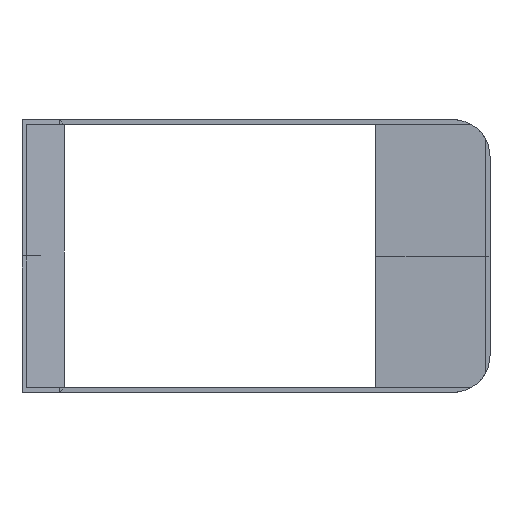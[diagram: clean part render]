
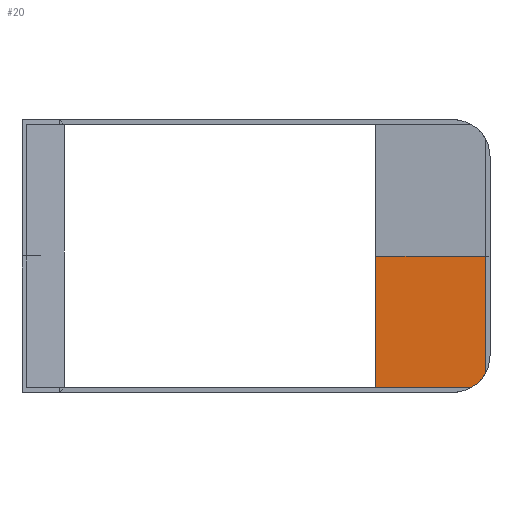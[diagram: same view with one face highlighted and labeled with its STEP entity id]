
A CAD part, top view. The second image highlights one B-rep face of the part: STEP entity #20.
In plain terms, the highlighted planar face has unit normal (0, 0, -1).
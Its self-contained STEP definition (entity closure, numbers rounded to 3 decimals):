
#20=ADVANCED_FACE('',(#44),#378,.T.);
#44=FACE_OUTER_BOUND('',#68,.T.);
#68=EDGE_LOOP('',(#112,#113,#114,#115,#116));
#112=ORIENTED_EDGE('',*,*,#240,.T.);
#113=ORIENTED_EDGE('',*,*,#208,.F.);
#114=ORIENTED_EDGE('',*,*,#212,.F.);
#115=ORIENTED_EDGE('',*,*,#211,.T.);
#116=ORIENTED_EDGE('',*,*,#244,.F.);
#208=EDGE_CURVE('',#341,#362,#288,.T.);
#211=EDGE_CURVE('',#344,#339,#291,.T.);
#212=EDGE_CURVE('',#344,#341,#292,.T.);
#240=EDGE_CURVE('',#360,#362,#319,.T.);
#244=EDGE_CURVE('',#360,#339,#322,.T.);
#288=B_SPLINE_CURVE_WITH_KNOTS('',1,(#666,#667),.UNSPECIFIED.,.F.,.F.,(2,
2),(430.037,558.77),.UNSPECIFIED.);
#291=B_SPLINE_CURVE_WITH_KNOTS('',1,(#672,#673),.UNSPECIFIED.,.F.,.F.,(2,
2),(-17131.968,-16982.984),.UNSPECIFIED.);
#292=B_SPLINE_CURVE_WITH_KNOTS('',1,(#674,#675),.UNSPECIFIED.,.F.,.F.,(2,
2),(-864.969,-685.969),.UNSPECIFIED.);
#319=B_SPLINE_CURVE_WITH_KNOTS('',3,(#738,#739,#740,#741,#742,#743),
 .UNSPECIFIED.,.F.,.F.,(4,2,4),(24.9,39.523,54.145),
 .UNSPECIFIED.);
#322=B_SPLINE_CURVE_WITH_KNOTS('',1,(#750,#751),.UNSPECIFIED.,.F.,.F.,(2,
2),(-343.749,-185.),.UNSPECIFIED.);
#339=VERTEX_POINT('',#609);
#341=VERTEX_POINT('',#611);
#344=VERTEX_POINT('',#614);
#360=VERTEX_POINT('',#630);
#362=VERTEX_POINT('',#632);
#378=PLANE('',#488);
#488=AXIS2_PLACEMENT_3D('',#546,#503,$);
#503=DIRECTION('',(0.,0.,-1.));
#546=CARTESIAN_POINT('',(289431.466,1669.7,-988.444));
#609=CARTESIAN_POINT('',(289582.,1481.,-988.444));
#611=CARTESIAN_POINT('',(289433.016,1302.,-988.444));
#614=CARTESIAN_POINT('',(289433.016,1481.,-988.444));
#630=CARTESIAN_POINT('',(289582.,1322.251,-988.444));
#632=CARTESIAN_POINT('',(289561.749,1302.,-988.444));
#666=CARTESIAN_POINT('',(289433.016,1302.,-988.444));
#667=CARTESIAN_POINT('',(289561.749,1302.,-988.444));
#672=CARTESIAN_POINT('',(289433.016,1481.,-988.444));
#673=CARTESIAN_POINT('',(289582.,1481.,-988.444));
#674=CARTESIAN_POINT('',(289433.016,1481.,-988.444));
#675=CARTESIAN_POINT('',(289433.016,1302.,-988.444));
#738=CARTESIAN_POINT('',(289582.,1322.251,-988.444));
#739=CARTESIAN_POINT('',(289579.701,1317.992,-988.444));
#740=CARTESIAN_POINT('',(289576.791,1314.08,-988.444));
#741=CARTESIAN_POINT('',(289569.92,1307.209,-988.444));
#742=CARTESIAN_POINT('',(289566.008,1304.299,-988.444));
#743=CARTESIAN_POINT('',(289561.749,1302.,-988.444));
#750=CARTESIAN_POINT('',(289582.,1322.251,-988.444));
#751=CARTESIAN_POINT('',(289582.,1481.,-988.444));
